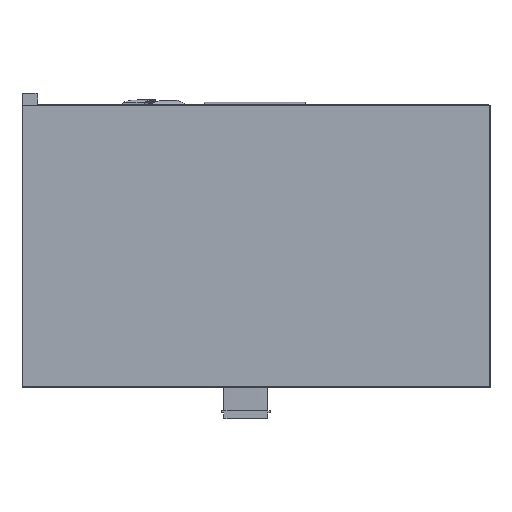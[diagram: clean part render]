
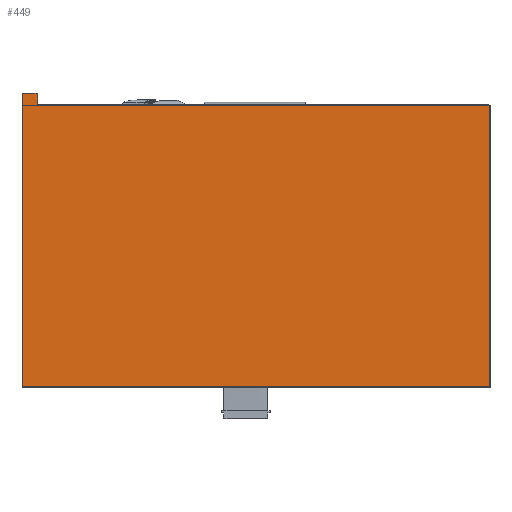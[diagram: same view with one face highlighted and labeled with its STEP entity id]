
A CAD part, top view. The second image highlights one B-rep face of the part: STEP entity #449.
In plain terms, the highlighted planar face has unit normal (0, 0, 1).
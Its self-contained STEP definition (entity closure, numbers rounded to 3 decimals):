
#120 = VERTEX_POINT('',#121);
#121 = CARTESIAN_POINT('',(0.3,4.1,7.05));
#127 = EDGE_CURVE('',#120,#128,#130,.T.);
#128 = VERTEX_POINT('',#129);
#129 = CARTESIAN_POINT('',(0.3,-98.8,7.05));
#130 = LINE('',#131,#132);
#131 = CARTESIAN_POINT('',(0.3,4.3,7.05));
#132 = VECTOR('',#133,1.);
#133 = DIRECTION('',(0.,-1.,0.));
#152 = VERTEX_POINT('',#153);
#153 = CARTESIAN_POINT('',(0.5,-99.,7.05));
#159 = EDGE_CURVE('',#128,#152,#160,.T.);
#160 = CIRCLE('',#161,0.2);
#161 = AXIS2_PLACEMENT_3D('',#162,#163,#164);
#162 = CARTESIAN_POINT('',(0.5,-98.8,7.05));
#163 = DIRECTION('',(-0.,0.,1.));
#164 = DIRECTION('',(0.,-1.,0.));
#215 = EDGE_CURVE('',#152,#216,#218,.T.);
#216 = VERTEX_POINT('',#217);
#217 = CARTESIAN_POINT('',(164.5,-99.,7.05));
#218 = LINE('',#219,#220);
#219 = CARTESIAN_POINT('',(0.3,-99.,7.05));
#220 = VECTOR('',#221,1.);
#221 = DIRECTION('',(1.,0.,0.));
#263 = VERTEX_POINT('',#264);
#264 = CARTESIAN_POINT('',(164.7,-98.8,7.05));
#270 = EDGE_CURVE('',#216,#263,#271,.T.);
#271 = CIRCLE('',#272,0.2);
#272 = AXIS2_PLACEMENT_3D('',#273,#274,#275);
#273 = CARTESIAN_POINT('',(164.5,-98.8,7.05));
#274 = DIRECTION('',(-0.,0.,1.));
#275 = DIRECTION('',(0.,-1.,0.));
#312 = EDGE_CURVE('',#263,#313,#315,.T.);
#313 = VERTEX_POINT('',#314);
#314 = CARTESIAN_POINT('',(164.7,0.1,7.05));
#315 = LINE('',#316,#317);
#316 = CARTESIAN_POINT('',(164.7,-99.,7.05));
#317 = VECTOR('',#318,1.);
#318 = DIRECTION('',(0.,1.,0.));
#430 = VERTEX_POINT('',#431);
#431 = CARTESIAN_POINT('',(0.5,4.3,7.05));
#437 = EDGE_CURVE('',#120,#430,#438,.T.);
#438 = CIRCLE('',#439,0.2);
#439 = AXIS2_PLACEMENT_3D('',#440,#441,#442);
#440 = CARTESIAN_POINT('',(0.5,4.1,7.05));
#441 = DIRECTION('',(-0.,-0.,-1.));
#442 = DIRECTION('',(0.,-1.,0.));
#449 = ADVANCED_FACE('',(#450),#507,.T.);
#450 = FACE_BOUND('',#451,.T.);
#451 = EDGE_LOOP('',(#452,#453,#454,#455,#456,#457,#466,#474,#483,#491,
    #500,#506));
#452 = ORIENTED_EDGE('',*,*,#127,.T.);
#453 = ORIENTED_EDGE('',*,*,#159,.T.);
#454 = ORIENTED_EDGE('',*,*,#215,.T.);
#455 = ORIENTED_EDGE('',*,*,#270,.T.);
#456 = ORIENTED_EDGE('',*,*,#312,.T.);
#457 = ORIENTED_EDGE('',*,*,#458,.T.);
#458 = EDGE_CURVE('',#313,#459,#461,.T.);
#459 = VERTEX_POINT('',#460);
#460 = CARTESIAN_POINT('',(164.5,0.3,7.05));
#461 = CIRCLE('',#462,0.2);
#462 = AXIS2_PLACEMENT_3D('',#463,#464,#465);
#463 = CARTESIAN_POINT('',(164.5,0.1,7.05));
#464 = DIRECTION('',(-0.,0.,1.));
#465 = DIRECTION('',(0.,-1.,0.));
#466 = ORIENTED_EDGE('',*,*,#467,.T.);
#467 = EDGE_CURVE('',#459,#468,#470,.T.);
#468 = VERTEX_POINT('',#469);
#469 = CARTESIAN_POINT('',(5.7,0.3,7.05));
#470 = LINE('',#471,#472);
#471 = CARTESIAN_POINT('',(164.7,0.3,7.05));
#472 = VECTOR('',#473,1.);
#473 = DIRECTION('',(-1.,0.,0.));
#474 = ORIENTED_EDGE('',*,*,#475,.F.);
#475 = EDGE_CURVE('',#476,#468,#478,.T.);
#476 = VERTEX_POINT('',#477);
#477 = CARTESIAN_POINT('',(5.5,0.5,7.05));
#478 = CIRCLE('',#479,0.2);
#479 = AXIS2_PLACEMENT_3D('',#480,#481,#482);
#480 = CARTESIAN_POINT('',(5.7,0.5,7.05));
#481 = DIRECTION('',(-0.,0.,1.));
#482 = DIRECTION('',(0.,-1.,0.));
#483 = ORIENTED_EDGE('',*,*,#484,.T.);
#484 = EDGE_CURVE('',#476,#485,#487,.T.);
#485 = VERTEX_POINT('',#486);
#486 = CARTESIAN_POINT('',(5.5,4.1,7.05));
#487 = LINE('',#488,#489);
#488 = CARTESIAN_POINT('',(5.5,0.3,7.05));
#489 = VECTOR('',#490,1.);
#490 = DIRECTION('',(0.,1.,0.));
#491 = ORIENTED_EDGE('',*,*,#492,.F.);
#492 = EDGE_CURVE('',#493,#485,#495,.T.);
#493 = VERTEX_POINT('',#494);
#494 = CARTESIAN_POINT('',(5.3,4.3,7.05));
#495 = CIRCLE('',#496,0.2);
#496 = AXIS2_PLACEMENT_3D('',#497,#498,#499);
#497 = CARTESIAN_POINT('',(5.3,4.1,7.05));
#498 = DIRECTION('',(-0.,-0.,-1.));
#499 = DIRECTION('',(0.,-1.,0.));
#500 = ORIENTED_EDGE('',*,*,#501,.T.);
#501 = EDGE_CURVE('',#493,#430,#502,.T.);
#502 = LINE('',#503,#504);
#503 = CARTESIAN_POINT('',(5.5,4.3,7.05));
#504 = VECTOR('',#505,1.);
#505 = DIRECTION('',(-1.,0.,0.));
#506 = ORIENTED_EDGE('',*,*,#437,.F.);
#507 = PLANE('',#508);
#508 = AXIS2_PLACEMENT_3D('',#509,#510,#511);
#509 = CARTESIAN_POINT('',(81.311,-48.539,7.05));
#510 = DIRECTION('',(0.,0.,1.));
#511 = DIRECTION('',(1.,0.,0.));
